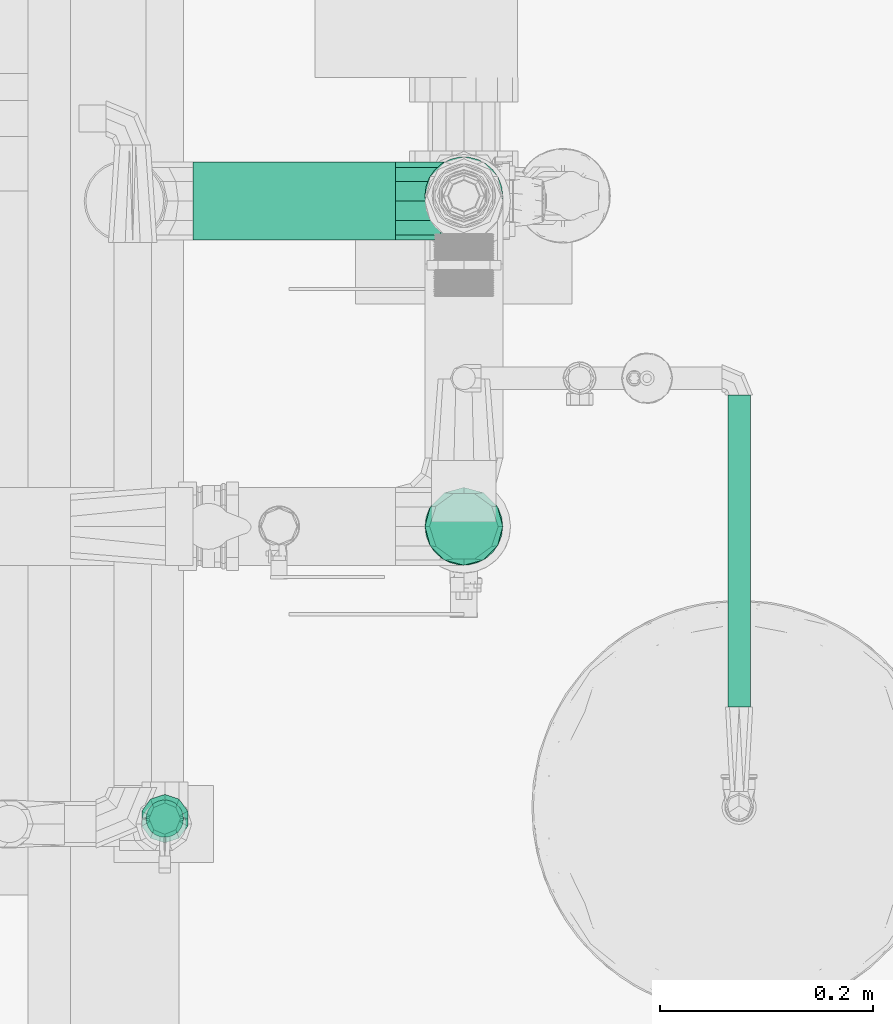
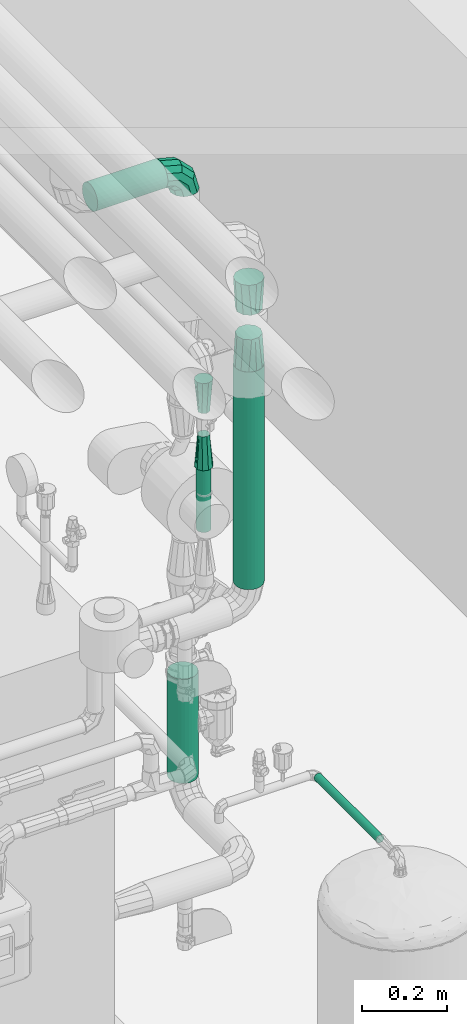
# One storey, part 23 of 43: 5 flow fittings, 5 flow segments.
"""IFC2X3 building model written with IfcOpenShell, lengths in millimetres."""

from ifc_helpers import new_model, entity, si_unit, converted_unit, derived_unit, direction, frame, frame_2d, origin, origin_2d_with_axis, place, context, subcontext, project, spatial, circle, extrude, faceted_brep, source, transform, mapped, material, material_list, type_object, type_shapes, element, save


model = new_model("IFC2X3")

# Units and contexts
model_context = context("Model", 3, precision=0.01, world=origin(), true_north=direction((6.123031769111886e-17, 1.0)))
body_context = subcontext(model_context, "Body", "Model", "MODEL_VIEW")
ifc_project = project(units=[si_unit("LENGTHUNIT", "METRE", prefix="MILLI"), si_unit("AREAUNIT", "SQUARE_METRE"), si_unit("VOLUMEUNIT", "CUBIC_METRE"), converted_unit("PLANEANGLEUNIT", "DEGREE", entity("IfcRatioMeasure", 0.017453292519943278), si_unit("PLANEANGLEUNIT", "RADIAN"), dimensions=[0, 0, 0, 0, 0, 0, 0]), si_unit("MASSUNIT", "GRAM", prefix="KILO"), derived_unit("MASSDENSITYUNIT", [(si_unit("MASSUNIT", "GRAM", prefix="KILO"), 1), (si_unit("LENGTHUNIT", "METRE"), -3)]), derived_unit("MOMENTOFINERTIAUNIT", [(si_unit("LENGTHUNIT", "METRE"), 4)]), si_unit("TIMEUNIT", "SECOND"), si_unit("FREQUENCYUNIT", "HERTZ"), si_unit("THERMODYNAMICTEMPERATUREUNIT", "DEGREE_CELSIUS"), derived_unit("THERMALTRANSMITTANCEUNIT", [(si_unit("MASSUNIT", "GRAM", prefix="KILO"), 1), (si_unit("THERMODYNAMICTEMPERATUREUNIT", "KELVIN"), -1), (si_unit("TIMEUNIT", "SECOND"), -3)]), derived_unit("VOLUMETRICFLOWRATEUNIT", [(si_unit("LENGTHUNIT", "METRE"), 3), (si_unit("TIMEUNIT", "SECOND"), -1)]), derived_unit("MASSFLOWRATEUNIT", [(si_unit("MASSUNIT", "GRAM", prefix="KILO"), 1), (si_unit("TIMEUNIT", "SECOND"), -1)]), derived_unit("ROTATIONALFREQUENCYUNIT", [(si_unit("TIMEUNIT", "SECOND"), -1)]), si_unit("ELECTRICCURRENTUNIT", "AMPERE"), si_unit("ELECTRICVOLTAGEUNIT", "VOLT"), si_unit("POWERUNIT", "WATT"), si_unit("FORCEUNIT", "NEWTON", prefix="KILO"), si_unit("ILLUMINANCEUNIT", "LUX"), si_unit("LUMINOUSFLUXUNIT", "LUMEN"), si_unit("LUMINOUSINTENSITYUNIT", "CANDELA"), derived_unit("USERDEFINED", [(si_unit("MASSUNIT", "GRAM", prefix="KILO"), -1), (si_unit("LENGTHUNIT", "METRE"), -2), (si_unit("TIMEUNIT", "SECOND"), 3), (si_unit("LUMINOUSFLUXUNIT", "LUMEN"), 1)]), derived_unit("SOUNDPOWERUNIT", [(si_unit("MASSUNIT", "GRAM", prefix="KILO"), 1), (si_unit("LENGTHUNIT", "METRE"), 2), (si_unit("TIMEUNIT", "SECOND"), -3)]), derived_unit("SOUNDPRESSUREUNIT", [(si_unit("MASSUNIT", "GRAM", prefix="KILO"), 1), (si_unit("LENGTHUNIT", "METRE"), -1), (si_unit("TIMEUNIT", "SECOND"), -2)]), derived_unit("LINEARVELOCITYUNIT", [(si_unit("LENGTHUNIT", "METRE"), 1), (si_unit("TIMEUNIT", "SECOND"), -1)]), si_unit("PRESSUREUNIT", "PASCAL"), derived_unit("USERDEFINED", [(si_unit("LENGTHUNIT", "METRE"), -2), (si_unit("MASSUNIT", "GRAM", prefix="KILO"), 1), (si_unit("TIMEUNIT", "SECOND"), -2)]), derived_unit("LINEARFORCEUNIT", [(si_unit("MASSUNIT", "GRAM", prefix="KILO"), 1), (si_unit("LENGTHUNIT", "METRE"), 1), (si_unit("TIMEUNIT", "SECOND"), -2), (si_unit("LENGTHUNIT", "METRE"), -1)]), derived_unit("PLANARFORCEUNIT", [(si_unit("MASSUNIT", "GRAM", prefix="KILO"), 1), (si_unit("LENGTHUNIT", "METRE"), 1), (si_unit("TIMEUNIT", "SECOND"), -2), (si_unit("LENGTHUNIT", "METRE"), -2)])], contexts=[model_context])

# Site, building, storey
site_placement = place(None, origin())
site = spatial("IfcSite", under=ifc_project, at=site_placement, Name="Default", CompositionType="ELEMENT")
building_placement = place(site_placement, origin())
building = spatial("IfcBuilding", under=site, at=building_placement, CompositionType="ELEMENT")
storey_placement = place(building_placement, frame((0.0, 0.0, 270.0)))
storey = spatial("IfcBuildingStorey", under=building, at=storey_placement, Name="Niveau 0", CompositionType="ELEMENT", Elevation=270.0)

# Flow segments
pipe_segment_type_1 = type_object("IfcPipeSegmentType", Name="Canalisation:tube acier", PredefinedType="NOTDEFINED")
flow_segment_1_placement = place(storey_placement, origin())
element("IfcFlowSegment", 1, at=flow_segment_1_placement, inside=storey, type_object=pipe_segment_type_1, Name="Canalisation:tube acier", ObjectType="Canalisation:tube acier", context=body_context, shape_type="SweptSolid", body=[
    extrude(circle(Radius=36.5125, at=origin_2d_with_axis()), frame((-1936.0, -9310.0, 2394.6017343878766), z_axis=(1.0, 0.0, 0.0), x_axis=(0.0, -1.0, 0.0)), (0.0, 0.0, 1.0), 190.0000000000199),
])
flow_segment_2_placement = place(storey_placement, origin())
element("IfcFlowSegment", 2, at=flow_segment_2_placement, inside=storey, type_object=pipe_segment_type_1, Name="Canalisation:tube acier", ObjectType="Canalisation:tube acier", context=body_context, shape_type="SweptSolid", body=[
    extrude(circle(Radius=36.5125, at=frame_2d((2.707167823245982e-13, 0.0), x_axis=(1.0, 0.0))), frame((-1682.0, -9305.0, 647.4999999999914), z_axis=(0.0, 0.0, 1.0), x_axis=(-1.0, 0.0, 0.0)), (0.0, 0.0, 1.0), 298.7105299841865),
])
flow_segment_3_placement = place(storey_placement, origin())
element("IfcFlowSegment", 3, at=flow_segment_3_placement, inside=storey, type_object=pipe_segment_type_1, Name="Canalisation:tube acier", ObjectType="Canalisation:tube acier", context=body_context, shape_type="SweptSolid", body=[
    extrude(circle(Radius=36.5125, at=frame_2d((2.707167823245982e-13, 0.0), x_axis=(1.0, 0.0))), frame((-1682.0, -9615.0, 1390.4999999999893), z_axis=(0.0, 0.0, 1.0), x_axis=(-1.0, 0.0, 0.0)), (0.0, 0.0, 1.0), 623.0356243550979),
])
flow_segment_4_placement = place(storey_placement, origin())
element("IfcFlowSegment", 4, at=flow_segment_4_placement, inside=storey, type_object=pipe_segment_type_1, Name="Canalisation:tube acier", ObjectType="Canalisation:tube acier", context=body_context, shape_type="SweptSolid", body=[
    extrude(circle(Radius=10.668, at=origin_2d_with_axis()), frame((-1423.877099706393, -9784.34180842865, 663.9355354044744), z_axis=(0.0, 1.0, 0.0), x_axis=(-1.0, 0.0, 0.0)), (0.0, 0.0, 1.0), 292.34265245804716),
])

# Flow fittings
ifc_material = material(Name="<Unnamed>")
ifc_material_list = material_list([ifc_material, ifc_material])
pipe_fitting_type_1 = type_object("IfcPipeFittingType", Name="Coude - Générique:Standard", PredefinedType="NOTDEFINED", material=ifc_material_list)
shared_shape_1 = source(origin(), body_context, "Body", "Brep", [
    faceted_brep([(23.03555308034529, 13.749999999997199, 0.0), (18.800625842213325, 16.19503638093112, -18.250000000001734), (31.60992723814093, 64.0, -18.250000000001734), (36.50000000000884, 64.0, 0.0), (7.230589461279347, 22.874999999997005, -31.609927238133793), (18.250000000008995, 64.0, -31.609927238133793), (-8.574374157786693, 32.0, -36.50000000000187), (0.0, 64.0, -36.50000000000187), (-24.379337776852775, 41.12499999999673, -31.609927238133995), (-18.249999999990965, 64.0, -31.609927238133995), (-35.94937415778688, 47.8049636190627, -18.250000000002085), (-31.609927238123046, 64.0, -18.250000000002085), (-40.184301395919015, 50.24999999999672, 0.0), (-36.49999999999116, 64.0, 0.0), (-35.949374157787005, 47.80496361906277, 18.249999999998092), (-31.609927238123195, 64.0, 18.249999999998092), (-24.37933777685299, 41.12499999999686, 31.609927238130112), (-18.249999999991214, 64.0, 31.609927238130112), (-8.574374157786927, 32.0, 36.49999999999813), (0.0, 64.0, 36.49999999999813), (7.2305894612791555, 22.87499999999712, 31.609927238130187), (18.250000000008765, 64.0, 31.609927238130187), (18.80062584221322, 16.195036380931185, 18.24999999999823), (31.6099272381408, 64.0, 18.24999999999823), (-13.749999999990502, -23.035553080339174, 0.0), (-16.1950363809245, -18.80062584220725, -18.250000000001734), (-22.874999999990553, -7.230589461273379, -31.609927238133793), (-32.0, 8.574374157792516, -36.50000000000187), (-41.124999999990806, 24.379337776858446, -31.609927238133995), (-47.804963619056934, 35.94937415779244, -18.250000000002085), (-50.24999999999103, 40.18430139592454, 0.0), (-47.80496361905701, 35.94937415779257, 18.249999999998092), (-41.12499999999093, 24.37933777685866, 31.609927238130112), (-32.0, 8.574374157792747, 36.49999999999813), (-22.874999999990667, -7.23058946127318, 31.609927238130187), (-16.195036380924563, -18.800625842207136, 18.24999999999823), (-64.0, -36.50000000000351, 0.0), (-64.0, -31.609927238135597, -18.250000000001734), (-64.0, -18.250000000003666, -31.609927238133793), (-64.0, 0.0, -36.50000000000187), (-64.0, 18.249999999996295, -31.609927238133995), (-64.0, 31.60992723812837, -18.250000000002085), (-64.0, 36.49999999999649, 0.0), (-64.0, 31.60992723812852, 18.249999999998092), (-64.0, 18.249999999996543, 31.609927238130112), (-64.0, 0.0, 36.49999999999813), (-64.0, -18.25000000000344, 31.609927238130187), (-64.0, -31.60992723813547, 18.24999999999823)], [[[0, 1, 2, 3]], [[1, 4, 5, 2]], [[4, 6, 7, 5]], [[6, 8, 9, 7]], [[8, 10, 11, 9]], [[10, 12, 13, 11]], [[12, 14, 15, 13]], [[14, 16, 17, 15]], [[16, 18, 19, 17]], [[18, 20, 21, 19]], [[20, 22, 23, 21]], [[22, 0, 3, 23]], [[24, 25, 1, 0]], [[25, 26, 4, 1]], [[26, 27, 6, 4]], [[27, 28, 8, 6]], [[28, 29, 10, 8]], [[29, 30, 12, 10]], [[30, 31, 14, 12]], [[31, 32, 16, 14]], [[32, 33, 18, 16]], [[33, 34, 20, 18]], [[34, 35, 22, 20]], [[35, 24, 0, 22]], [[36, 37, 25, 24]], [[37, 38, 26, 25]], [[38, 39, 27, 26]], [[39, 40, 28, 27]], [[40, 41, 29, 28]], [[41, 42, 30, 29]], [[42, 43, 31, 30]], [[43, 44, 32, 31]], [[44, 45, 33, 32]], [[45, 46, 34, 33]], [[46, 47, 35, 34]], [[47, 36, 24, 35]], [[3, 2, 5, 7, 9, 11, 13, 15, 17, 19, 21, 23]], [[47, 46, 45, 44, 43, 42, 41, 40, 39, 38, 37, 36]]]),
])
type_shapes(pipe_fitting_type_1, [shared_shape_1])
flow_fitting_placement = place(storey_placement, frame((-1682.0, -9310.0, 2394.6017343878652), z_axis=(0.0, 1.0, 0.0), x_axis=(1.0, 0.0, 0.0)))
element("IfcFlowFitting", 5, at=flow_fitting_placement, inside=storey, type_object=pipe_fitting_type_1, material=ifc_material, Name="Coude - Générique:Standard", ObjectType="Coude - Générique:Standard", context=body_context, shape_type="MappedRepresentation", body=[
    mapped(shared_shape_1, transform((0.0, 0.0, 0.0), scale=1.0)),
])
pipe_fitting_type_2 = type_object("IfcPipeFittingType", Name="Transformation - Générique:Standard", PredefinedType="NOTDEFINED", material=ifc_material)
shared_shape_2 = source(origin(), body_context, "Body", "Brep", [
    faceted_brep([(89.0, 32.20898437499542, 0.0), (89.0, 29.133300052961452, 9.465983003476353), (89.0, 26.05761573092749, 18.93196600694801), (89.0, 18.0053696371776, 24.782265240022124), (89.0, 9.953123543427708, 30.632564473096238), (89.0, 0.0, 30.63256447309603), (89.0, -9.95312354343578, 30.632564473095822), (89.0, -18.00536963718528, 24.782265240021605), (89.0, -26.057615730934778, 18.931966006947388), (89.0, -29.133300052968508, 9.4659830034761), (89.0, -32.20898437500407, 0.0), (89.0, -29.133300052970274, -9.465983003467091), (89.0, -26.057615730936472, -18.931966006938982), (89.0, -18.005369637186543, -24.782265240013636), (89.0, -9.953123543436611, -30.6325644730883), (89.0, 0.0, -30.632564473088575), (89.0, 9.953123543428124, -30.632564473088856), (89.0, 18.005369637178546, -24.78226524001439), (89.0, 26.05761573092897, -18.931966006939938), (89.0, 29.13330005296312, -9.465983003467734), (0.0, 9.125000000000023, 34.054963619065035), (0.0, 18.249999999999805, 31.609927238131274), (0.0, 24.929963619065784, 24.929963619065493), (0.0, 31.609927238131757, 18.249999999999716), (0.0, 34.62802893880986, 6.986291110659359), (0.0, 36.50000000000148, 0.0), (0.0, 34.62802896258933, -6.986291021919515), (0.0, 31.609927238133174, -18.2500000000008), (0.0, 24.929963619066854, -24.929963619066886), (0.0, 18.250000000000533, -31.609927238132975), (0.0, 9.12500000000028, -34.05496361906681), (0.0, 0.0, -36.50000000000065), (0.0, -9.125000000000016, -34.054963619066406), (0.0, -18.250000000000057, -31.609927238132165), (0.0, -24.929963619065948, -24.929963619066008), (0.0, -31.609927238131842, -18.249999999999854), (0.0, -34.62802893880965, -6.986291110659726), (0.0, -36.499999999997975, 0.0), (0.0, -34.62802896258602, 6.98629102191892), (0.0, -31.609927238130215, 18.249999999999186), (0.0, -24.92996361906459, 24.92996361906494), (0.0, -18.249999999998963, 31.609927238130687), (0.0, -9.124999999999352, 34.05496361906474), (0.0, 0.0, 36.49999999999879)], [[[0, 1, 2, 3, 4, 5, 6, 7, 8, 9, 10, 11, 12, 13, 14, 15, 16, 17, 18, 19]], [[20, 21, 22, 23, 24, 25, 26, 27, 28, 29, 30, 31, 32, 33, 34, 35, 36, 37, 38, 39, 40, 41, 42, 43]], [[28, 17, 29]], [[27, 18, 28]], [[17, 28, 18]], [[27, 19, 18]], [[26, 0, 19]], [[33, 14, 13]], [[35, 11, 36]], [[17, 16, 29]], [[14, 32, 15]], [[16, 15, 30]], [[12, 34, 13]], [[32, 31, 15]], [[33, 13, 34]], [[10, 36, 11]], [[27, 26, 19]], [[14, 33, 32]], [[0, 26, 25]], [[11, 35, 12]], [[12, 35, 34]], [[10, 37, 36]], [[30, 15, 31]], [[30, 29, 16]], [[40, 7, 41]], [[39, 8, 40]], [[7, 40, 8]], [[39, 9, 8]], [[38, 10, 9]], [[21, 4, 3]], [[23, 1, 24]], [[7, 6, 41]], [[4, 20, 5]], [[6, 5, 42]], [[2, 22, 3]], [[20, 43, 5]], [[21, 3, 22]], [[0, 24, 1]], [[39, 38, 9]], [[4, 21, 20]], [[10, 38, 37]], [[1, 23, 2]], [[2, 23, 22]], [[0, 25, 24]], [[42, 5, 43]], [[42, 41, 6]]]),
])
type_shapes(pipe_fitting_type_2, [shared_shape_2])
for number, where, z_axis, x_axis in (
    (6, (-1682.0, -9615.0, 2013.5356243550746), (0.0, -1.0, 0.0), (0.0, 0.0, 1.0)),
    (7, (-1682.0, -9615.0, 2261.5356243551), (0.0, -1.0, 0.0), (0.0, 0.0, -1.0)),
):
    element("IfcFlowFitting", number, at=place(storey_placement, frame(where, z_axis=z_axis, x_axis=x_axis)), inside=storey, type_object=pipe_fitting_type_2, material=ifc_material, Name="Transformation - Générique:Standard", ObjectType="Transformation - Générique:Standard", context=body_context, shape_type="MappedRepresentation", body=[
        mapped(shared_shape_2, transform((0.0, 0.0, 0.0), scale=1.0)),
    ])

# Flow segment
pipe_segment_type_2 = type_object("IfcPipeSegmentType", Name="Canalisation:tuyau cuivre", PredefinedType="NOTDEFINED")
flow_segment_5_placement = place(storey_placement, origin())
element("IfcFlowSegment", 8, at=flow_segment_5_placement, inside=storey, type_object=pipe_segment_type_2, Name="Canalisation:tuyau cuivre", ObjectType="Canalisation:tuyau cuivre", context=body_context, shape_type="SweptSolid", body=[
    extrude(circle(Radius=17.5, at=origin_2d_with_axis()), frame((-1962.4830858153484, -9889.089418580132, 1805.38141480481)), (0.0, 0.0, 1.0), 179.99999999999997),
])

# Flow fittings
pipe_fitting_type_3 = type_object("IfcPipeFittingType", Name="Transformation - Générique:Standard", PredefinedType="NOTDEFINED", material=ifc_material)
shared_shape_3 = source(origin(), body_context, "Body", "Brep", [
    faceted_brep([(91.44531250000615, 10.418500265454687, -10.418500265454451), (91.44531250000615, 11.497371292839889, -7.813875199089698), (91.44531250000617, 12.57624232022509, -5.209250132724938), (91.4453125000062, 13.655113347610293, -2.604625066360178), (91.44531250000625, 14.733984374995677, 0.0), (91.44531250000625, 13.655113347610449, 2.6046250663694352), (91.44531250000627, 12.57624232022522, 5.209250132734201), (91.44531250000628, 11.497371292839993, 7.813875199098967), (91.44531250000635, 10.418500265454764, 10.418500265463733), (91.44531250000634, 7.813875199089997, 11.497371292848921), (91.44531250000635, 5.209250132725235, 12.576242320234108), (91.44531250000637, 2.6046250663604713, 13.655113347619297), (91.4453125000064, 0.0, 14.733984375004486), (91.44531250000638, -2.6046250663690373, 13.65511334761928), (91.44531250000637, -5.20925013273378, 12.576242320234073), (91.44531250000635, -7.813875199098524, 11.497371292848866), (91.44531250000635, -10.418500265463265, 10.418500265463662), (91.44531250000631, -11.497371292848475, 7.8138751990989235), (91.4453125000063, -12.576242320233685, 5.209250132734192), (91.44531250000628, -13.655113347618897, 2.604625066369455), (91.44531250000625, -14.733984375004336, 0.0), (91.44531250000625, -13.655113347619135, -2.604625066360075), (91.44531250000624, -12.576242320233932, -5.209250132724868), (91.4453125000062, -11.49737129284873, -7.813875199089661), (91.44531250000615, -10.418500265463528, -10.418500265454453), (91.44531250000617, -7.813875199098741, -11.497371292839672), (91.44531250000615, -5.209250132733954, -12.576242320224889), (91.44531250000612, -2.6046250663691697, -13.655113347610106), (91.4453125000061, 0.0, -14.733984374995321), (91.44531250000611, 2.604625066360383, -13.655113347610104), (91.44531250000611, 5.209250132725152, -12.576242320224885), (91.44531250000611, 7.813875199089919, -11.497371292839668), (0.0, 22.70898437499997, 0.0), (0.0, 20.54046932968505, -6.6740030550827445), (0.0, 18.37195428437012, -13.34800611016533), (0.0, 12.694708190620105, -17.472766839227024), (0.0, 7.0174620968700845, -21.59752756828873), (0.0, 0.0, -21.597527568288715), (0.0, -7.017462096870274, -21.597527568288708), (0.0, -12.69470819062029, -17.47276683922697), (0.0, -18.371954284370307, -13.348006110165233), (0.0, -19.456211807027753, -10.011004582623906), (0.0, -20.540469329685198, -6.674003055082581), (0.0, -22.708984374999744, 0.0), (0.0, -20.5404693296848, 6.674003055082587), (0.0, -18.371954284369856, 13.348006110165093), (0.0, -12.694708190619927, 17.47276683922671), (0.0, -7.017462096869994, 21.597527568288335), (0.0, 0.0, 21.59752756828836), (0.0, 7.017462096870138, 21.59752756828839), (0.0, 12.694708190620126, 17.472766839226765), (0.0, 18.371954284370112, 13.348006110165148), (0.0, 19.456211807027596, 10.01100458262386), (0.0, 20.540469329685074, 6.674003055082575)], [[[0, 1, 2, 3, 4, 5, 6, 7, 8, 9, 10, 11, 12, 13, 14, 15, 16, 17, 18, 19, 20, 21, 22, 23, 24, 25, 26, 27, 28, 29, 30, 31]], [[32, 33, 34, 35, 36, 37, 38, 39, 40, 41, 42, 43, 44, 45, 46, 47, 48, 49, 50, 51, 52, 53]], [[40, 24, 23]], [[34, 2, 1, 0]], [[22, 42, 41]], [[35, 0, 31, 30]], [[35, 34, 0]], [[30, 36, 35]], [[37, 29, 28]], [[24, 40, 39]], [[37, 27, 38]], [[36, 29, 37]], [[27, 37, 28]], [[43, 21, 20]], [[2, 34, 33]], [[39, 26, 25, 24]], [[21, 43, 42]], [[32, 3, 33]], [[36, 30, 29]], [[27, 26, 38]], [[3, 32, 4]], [[22, 21, 42]], [[40, 23, 41]], [[23, 22, 41]], [[26, 39, 38]], [[3, 2, 33]], [[51, 8, 7]], [[45, 18, 17, 16]], [[6, 53, 52]], [[46, 16, 15, 14]], [[46, 45, 16]], [[14, 47, 46]], [[48, 13, 12]], [[8, 51, 50]], [[48, 11, 49]], [[47, 13, 48]], [[11, 48, 12]], [[32, 5, 4]], [[18, 45, 44]], [[50, 10, 9, 8]], [[5, 32, 53]], [[43, 19, 44]], [[47, 14, 13]], [[11, 10, 49]], [[19, 43, 20]], [[6, 5, 53]], [[51, 7, 52]], [[7, 6, 52]], [[10, 50, 49]], [[19, 18, 44]]]),
])
type_shapes(pipe_fitting_type_3, [shared_shape_3])
for number, where, z_axis, x_axis in (
    (9, (-1962.4830858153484, -9889.089418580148, 2234.9470398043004), (-1.0, 0.0, 0.0), (0.0, 0.0, -1.0)),
    (10, (-1962.4830858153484, -9889.089418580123, 1985.3814148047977), (-1.0, 0.0, 0.0), (0.0, 0.0, 1.0)),
):
    element("IfcFlowFitting", number, at=place(storey_placement, frame(where, z_axis=z_axis, x_axis=x_axis)), inside=storey, type_object=pipe_fitting_type_3, material=ifc_material, Name="Transformation - Générique:Standard", ObjectType="Transformation - Générique:Standard", context=body_context, shape_type="MappedRepresentation", body=[
        mapped(shared_shape_3, transform((0.0, 0.0, 0.0), scale=1.0)),
    ])

save(model, "model.ifc")
